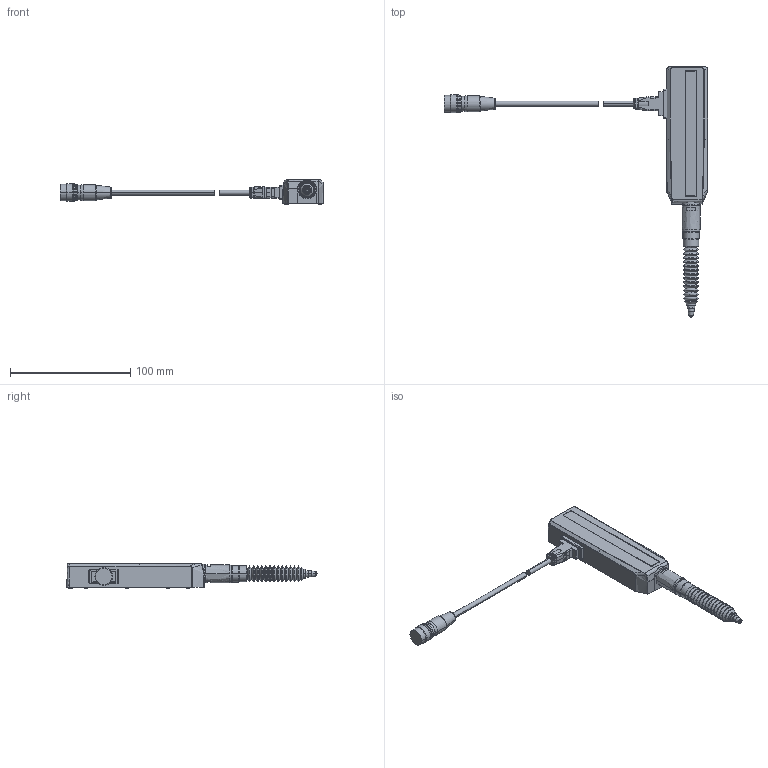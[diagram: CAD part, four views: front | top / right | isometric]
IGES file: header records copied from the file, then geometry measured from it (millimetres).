
Start section: Elysium IGES Interface
Global section: file name: C:\Users\u158450\Desktop\LG100-125_3D.igs; native system: Creo Elements/Direct Modeling 18.1I  13-Aug-2016; preprocessor: Creo Element/Direct IGES_3D V2.2; author: Unknown; organization: Unknown; date: 20210222.083426; units: millimetre
Bounding box: 219.05 x 208.3 x 20.7 mm (x, y, z)
Volume: 96311.5 mm3; surface area: 22743.9 mm2
Topology: 2 solids, 2 shells, 520 faces, 1257 edges, 719 vertices
Faces by surface type: bspline 520
